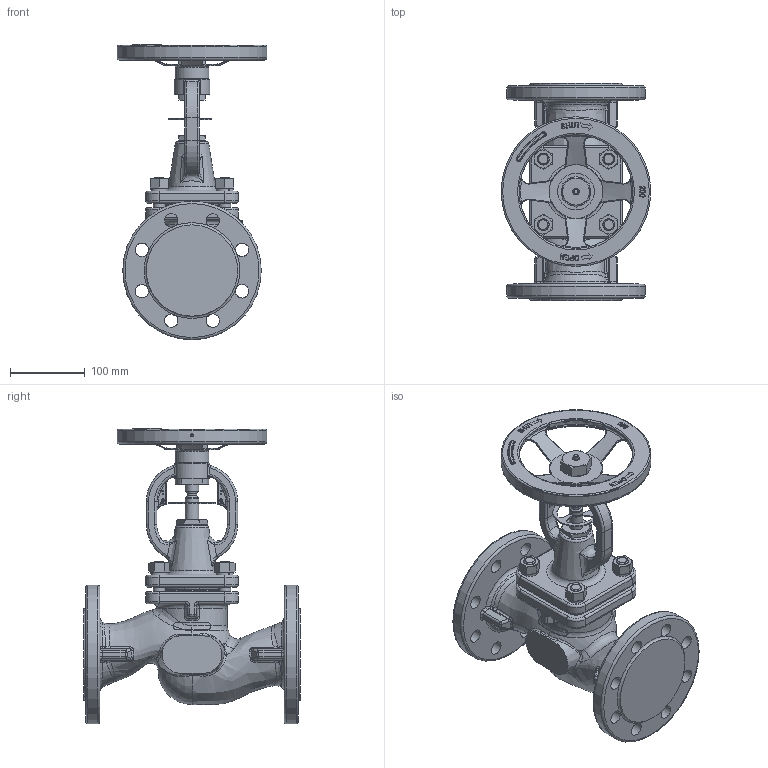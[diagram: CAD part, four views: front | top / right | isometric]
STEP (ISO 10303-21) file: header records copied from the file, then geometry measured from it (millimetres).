
FILE_DESCRIPTION(/* description */ (''),/* implementation_level */ '2;1');
FILE_NAME(/* name */ 'ZV226E_DN65_PN40.stp',/* time_stamp */ '2014-10-01T05:37:57+02:00',/* author */ (''),/* organization */ (''),/* preprocessor_version */ 'ST-DEVELOPER v15',/* originating_system */ 'SIEMENS PLM Software NX 8.5',/* authorisation */ '');
FILE_SCHEMA (('AP203_CONFIGURATION_CONTROLLED_3D_DESIGN_OF_MECHANICAL_PARTS_AND_ASSEMBLIES_MIM_LF { 1 0 10303 403 2 1 2}'));
Products named in the file (1): adam0D0CD2F3qxc0
Bounding box: 200 x 290 x 394.9 mm (x, y, z)
Volume: 3794495.1 mm3; surface area: 395660.9 mm2
Topology: 1 solids, 1 shells, 1101 faces, 2735 edges, 1629 vertices
Faces by surface type: plane 360, cylinder 256, bspline 217, torus 123, cone 98, extrusion 27, sphere 20
Full cylindrical faces by diameter (mm): 2 x4, 4 x5, 7 x1, 13 x1, 15.732 x12, 16 x1, 18 x19, 27.7 x1, 34 x1, 35 x1, 45 x3, 48 x1, 88 x1, 98 x1, 152 x1, 155 x1, 177 x1, 185 x2, 197 x1, 200 x1
Entity records: 51638 total; most frequent: CARTESIAN_POINT 28239, ORIENTED_EDGE 5064, DIRECTION 4388, EDGE_CURVE 2532, AXIS2_PLACEMENT_3D 1804, VERTEX_POINT 1573, EDGE_LOOP 1307, ADVANCED_FACE 1101
